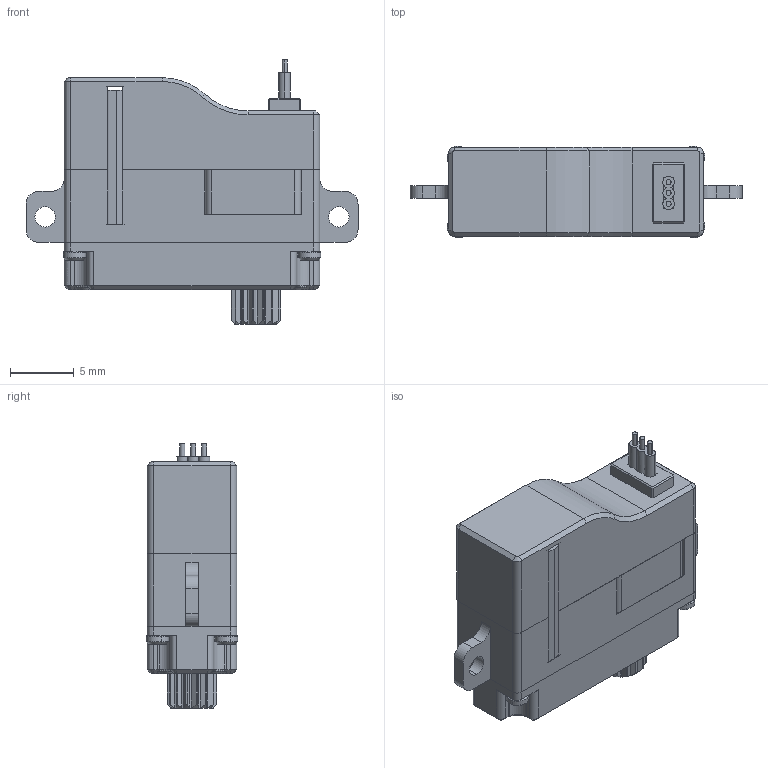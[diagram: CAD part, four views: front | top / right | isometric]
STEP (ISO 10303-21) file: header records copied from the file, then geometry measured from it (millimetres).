
FILE_DESCRIPTION (( 'STEP AP214' ), '1' );
FILE_NAME ('X06H DM.STEP', '2021-02-22T08:46:11', ( '微软用户' ), ( '微软中国' ), 'SwSTEP 2.0', 'SolidWorks 2016', '' );
FILE_SCHEMA (( 'AUTOMOTIVE_DESIGN' ));
Length unit declared in the file: millimetre
Products named in the file (2): X06H DM
Bounding box: 26 x 7.2 x 20.7 mm (x, y, z)
Surface area: 1829.3 mm2 (no closed solid volume)
Topology: 0 solids, 12 shells, 338 faces, 1054 edges, 719 vertices
Faces by surface type: plane 181, cylinder 103, cone 46, torus 8
Entity records: 15549 total; most frequent: CARTESIAN_POINT 2254, DIRECTION 2049, ORIENTED_EDGE 1891, EDGE_CURVE 1054, VERTEX_POINT 719, AXIS2_PLACEMENT_3D 702, VECTOR 645, LINE 645
